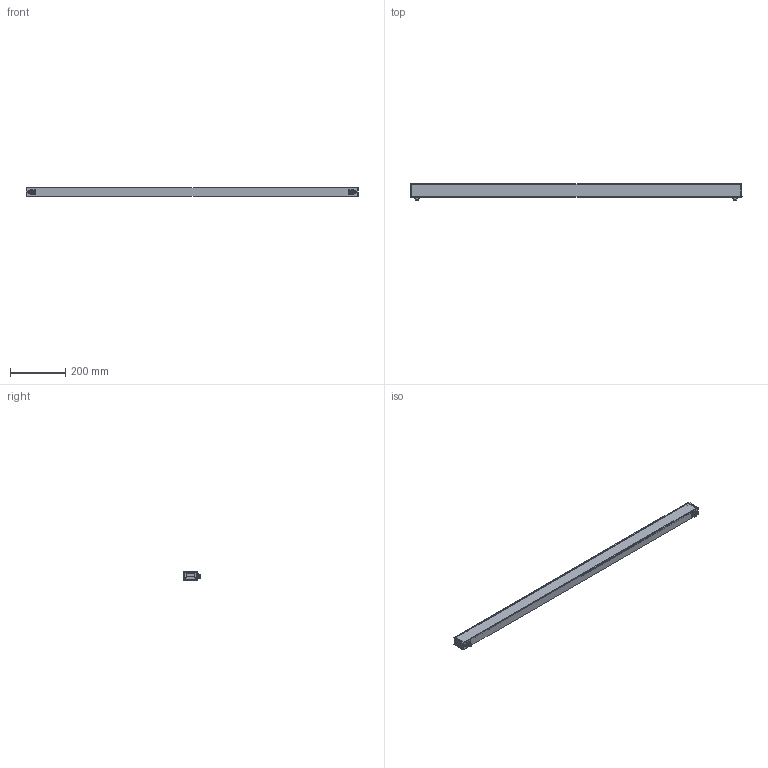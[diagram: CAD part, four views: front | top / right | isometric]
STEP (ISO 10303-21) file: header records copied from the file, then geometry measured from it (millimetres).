
FILE_DESCRIPTION(/* description */ (''),/* implementation_level */ '2;1');
FILE_NAME(/* name */ 'P:/1058_Scalable_Lighting/07_scalable_50mm_line/Mech drawings/02_for inline/Product_1200mm/User/10580702_1200_V1.1.1_20200911.step',/* time_stamp */ '2020-09-16T20:12:59+02:00',/* author */ (''),/* organization */ (''),/* preprocessor_version */ 'ST-DEVELOPER v18.1',/* originating_system */ 'Autodesk Translation Framework v9.3.0.1241',/* authorisation */ '');
FILE_SCHEMA (('AUTOMOTIVE_DESIGN { 1 0 10303 214 3 1 1 }'));
Length unit declared in the file: millimetre
Products named in the file (1): 10580702_1200_V1.1.1_20200911
Bounding box: 1200.02 x 60.7 x 30 mm (x, y, z)
Volume: 641362.8 mm3; surface area: 380600.5 mm2
Topology: 1 solids, 9 shells, 819 faces, 1974 edges, 1238 vertices
Faces by surface type: plane 396, cylinder 238, cone 145, torus 20, sphere 20
Full cylindrical faces by diameter (mm): 1 x2, 1.3 x14, 2 x16, 2.05 x12, 2.2 x8, 2.529 x36, 3.332 x12, 4 x16, 4.3 x4, 7.53 x4, 8.4 x2, 8.6 x2, 9.7 x2, 11.61 x2, 11.9 x2, 12.2 x2, 12.69 x2, 13.8 x2
Entity records: 25816 total; most frequent: CARTESIAN_POINT 6412, DIRECTION 4186, ORIENTED_EDGE 3872, EDGE_CURVE 1936, AXIS2_PLACEMENT_3D 1648, VERTEX_POINT 1238, EDGE_LOOP 1048, LINE 890
